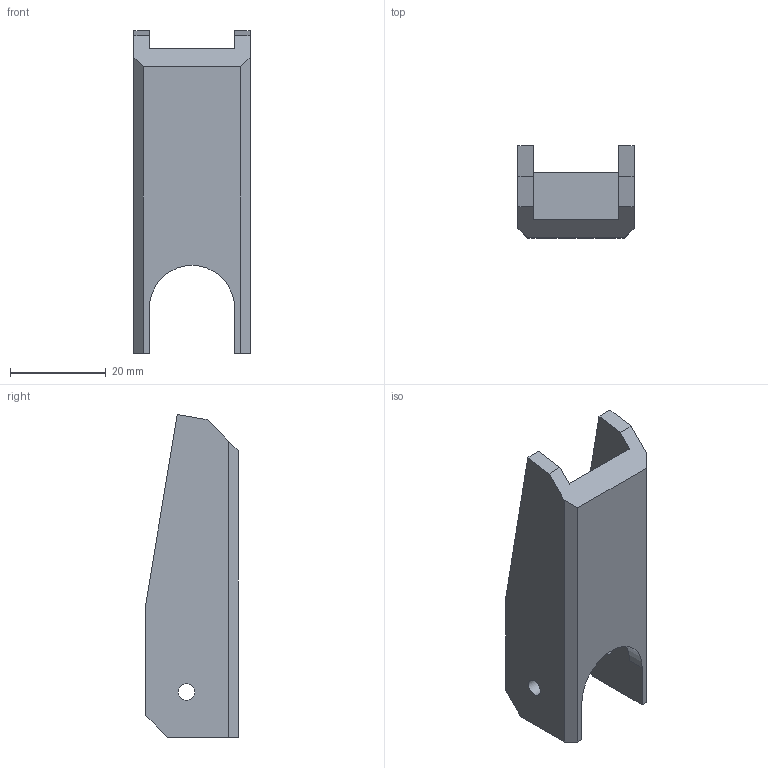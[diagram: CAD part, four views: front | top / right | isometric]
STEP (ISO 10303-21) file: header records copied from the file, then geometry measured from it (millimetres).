
FILE_DESCRIPTION( ( '' ), ' ' );
FILE_NAME( '/vol/tmp/translate-3023684348035674392/5dc6e51b9433371275628cce.step', '2019-11-09T16:11:08', ( '' ), ( '' ), ' ', ' ', ' ' );
FILE_SCHEMA( ( 'AUTOMOTIVE_DESIGN { 1 0 10303 214 1 1 1 1 }' ) );
Length unit declared in the file: metre
Products named in the file (1): Part 1
Bounding box: 24.3 x 19.3 x 67.5 mm (x, y, z)
Volume: 10740.8 mm3; surface area: 7152.9 mm2
Topology: 1 solids, 1 shells, 26 faces, 74 edges, 50 vertices
Faces by surface type: plane 23, cylinder 3
Full cylindrical faces by diameter (mm): 3.5 x2
Entity records: 1044 total; most frequent: CARTESIAN_POINT 145, ORIENTED_EDGE 140, DIRECTION 130, EDGE_CURVE 70, LINE 64, VECTOR 64, VERTEX_POINT 48, AXIS2_PLACEMENT_3D 33
